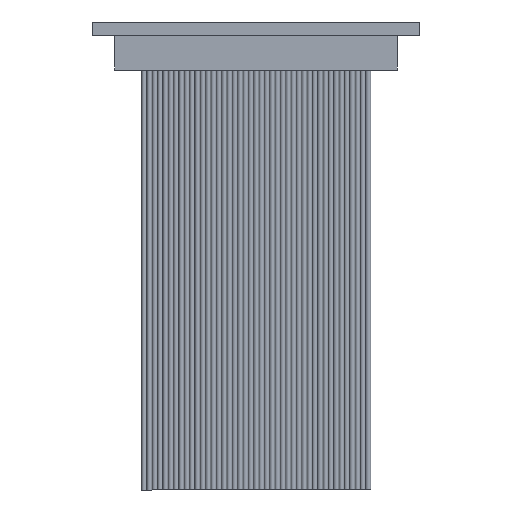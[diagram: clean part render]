
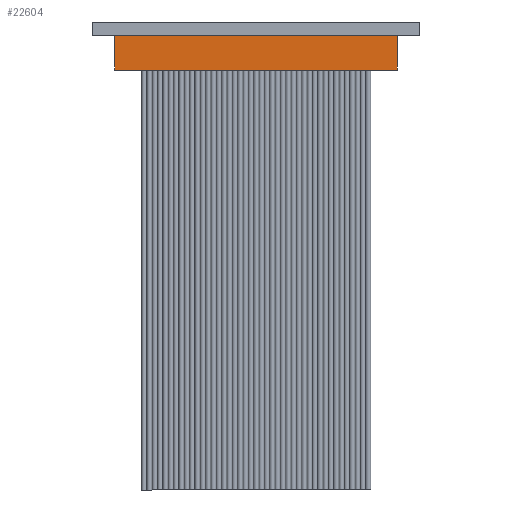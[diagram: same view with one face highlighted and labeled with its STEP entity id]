
A CAD part, front view. The second image highlights one B-rep face of the part: STEP entity #22604.
In plain terms, the highlighted planar face has unit normal (0, -1, 0).
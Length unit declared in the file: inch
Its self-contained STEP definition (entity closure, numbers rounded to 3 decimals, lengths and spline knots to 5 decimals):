
#4971 = ORIENTED_EDGE ( 'NONE', *, *, #62213, .F. ) ;
#11007 = CARTESIAN_POINT ( 'NONE',  ( 0.6625, -0.0625, -0.225 ) ) ;
#11971 = LINE ( 'NONE', #21153, #23953 ) ;
#14638 = LINE ( 'NONE', #92886, #18653 ) ;
#18653 = VECTOR ( 'NONE', #22872, 39.37008 ) ;
#20163 = VERTEX_POINT ( 'NONE', #24768 ) ;
#20692 = EDGE_CURVE ( 'NONE', #68948, #81592, #11971, .T. ) ;
#21153 = CARTESIAN_POINT ( 'NONE',  ( 0.6625, -0.0625, -0.225 ) ) ;
#22373 = CARTESIAN_POINT ( 'NONE',  ( 0.6625, -0.0625, -0.225 ) ) ;
#22604 = ADVANCED_FACE ( 'NONE', ( #53103 ), #60305, .T. ) ;
#22872 = DIRECTION ( 'NONE',  ( 0., 0., 1. ) ) ;
#23953 = VECTOR ( 'NONE', #50403, 39.37008 ) ;
#24768 = CARTESIAN_POINT ( 'NONE',  ( 0.6625, -0.0625, -0.062 ) ) ;
#28087 = LINE ( 'NONE', #89938, #77893 ) ;
#34540 = ORIENTED_EDGE ( 'NONE', *, *, #59126, .T. ) ;
#45736 = EDGE_LOOP ( 'NONE', ( #34540, #4971, #52979, #48569 ) ) ;
#46416 = DIRECTION ( 'NONE',  ( 0., -1., 0. ) ) ;
#48569 = ORIENTED_EDGE ( 'NONE', *, *, #20692, .T. ) ;
#48588 = CARTESIAN_POINT ( 'NONE',  ( -0.6625, -0.0625, -0.062 ) ) ;
#50403 = DIRECTION ( 'NONE',  ( 1., 0., 0. ) ) ;
#52979 = ORIENTED_EDGE ( 'NONE', *, *, #99773, .F. ) ;
#53103 = FACE_OUTER_BOUND ( 'NONE', #45736, .T. ) ;
#56817 = VECTOR ( 'NONE', #59596, 39.37008 ) ;
#58579 = CARTESIAN_POINT ( 'NONE',  ( -0.6625, -0.0625, -0.062 ) ) ;
#59126 = EDGE_CURVE ( 'NONE', #81592, #20163, #28087, .T. ) ;
#59596 = DIRECTION ( 'NONE',  ( 1., 0., 0. ) ) ;
#60305 = PLANE ( 'NONE',  #92084 ) ;
#62213 = EDGE_CURVE ( 'NONE', #94701, #20163, #67737, .T. ) ;
#67458 = DIRECTION ( 'NONE',  ( 0., 0., 1. ) ) ;
#67737 = LINE ( 'NONE', #58579, #56817 ) ;
#68948 = VERTEX_POINT ( 'NONE', #75453 ) ;
#75453 = CARTESIAN_POINT ( 'NONE',  ( -0.6625, -0.0625, -0.225 ) ) ;
#77893 = VECTOR ( 'NONE', #67458, 39.37008 ) ;
#81592 = VERTEX_POINT ( 'NONE', #11007 ) ;
#85214 = DIRECTION ( 'NONE',  ( 0., 0., 1. ) ) ;
#89938 = CARTESIAN_POINT ( 'NONE',  ( 0.6625, -0.0625, -0.225 ) ) ;
#92084 = AXIS2_PLACEMENT_3D ( 'NONE', #22373, #46416, #85214 ) ;
#92886 = CARTESIAN_POINT ( 'NONE',  ( -0.6625, -0.0625, -0.225 ) ) ;
#94701 = VERTEX_POINT ( 'NONE', #48588 ) ;
#99773 = EDGE_CURVE ( 'NONE', #68948, #94701, #14638, .T. ) ;
